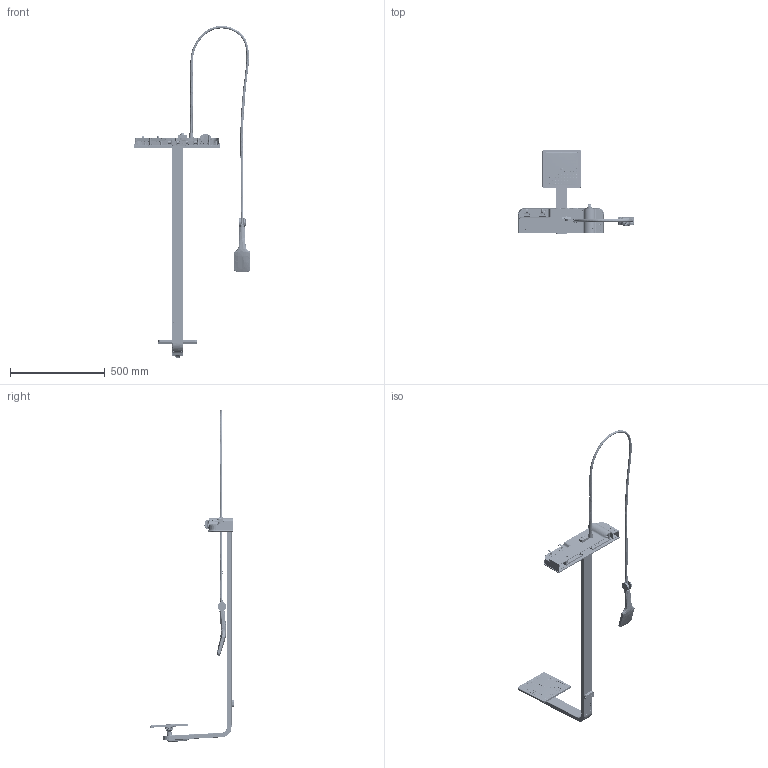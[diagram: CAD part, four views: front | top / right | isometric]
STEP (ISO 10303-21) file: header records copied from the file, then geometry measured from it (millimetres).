
FILE_DESCRIPTION (( 'STEP AP203' ), '1' );
FILE_NAME ('DS.SH650.STEP', '2022-08-08T14:53:56', ( '' ), ( '' ), 'SwSTEP 2.0', 'SolidWorks 2021', '' );
FILE_SCHEMA (( 'CONFIG_CONTROL_DESIGN' ));
Products named in the file (1): DS.SH650
Bounding box: 613.85 x 446.11 x 1749.94 mm (x, y, z)
Volume: 2238334.1 mm3; surface area: 1585567.8 mm2
Topology: 53 solids, 53 shells, 10693 faces, 27654 edges, 17464 vertices
Faces by surface type: plane 3369, cylinder 3121, bspline 2510, cone 918, torus 748, sphere 27
Entity records: 580749 total; most frequent: CARTESIAN_POINT 342857, ORIENTED_EDGE 55224, DIRECTION 40173, EDGE_CURVE 27612, VERTEX_POINT 17456, AXIS2_PLACEMENT_3D 14708, EDGE_LOOP 12246, VECTOR 10757
